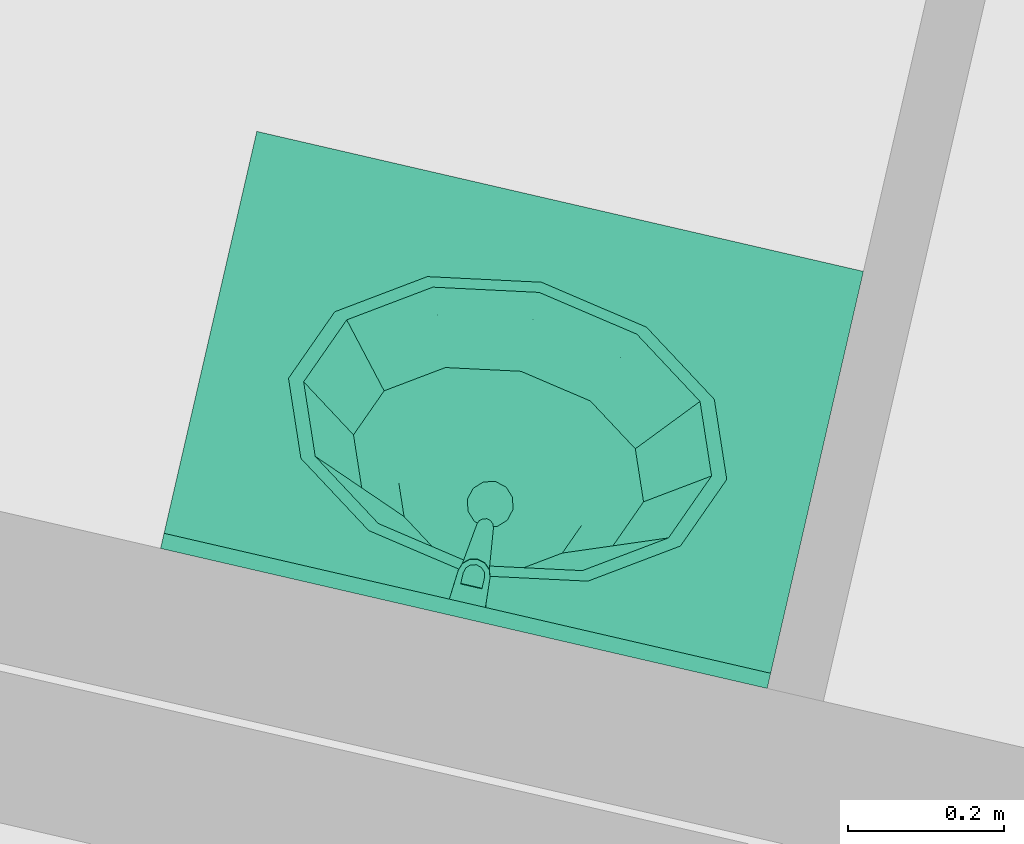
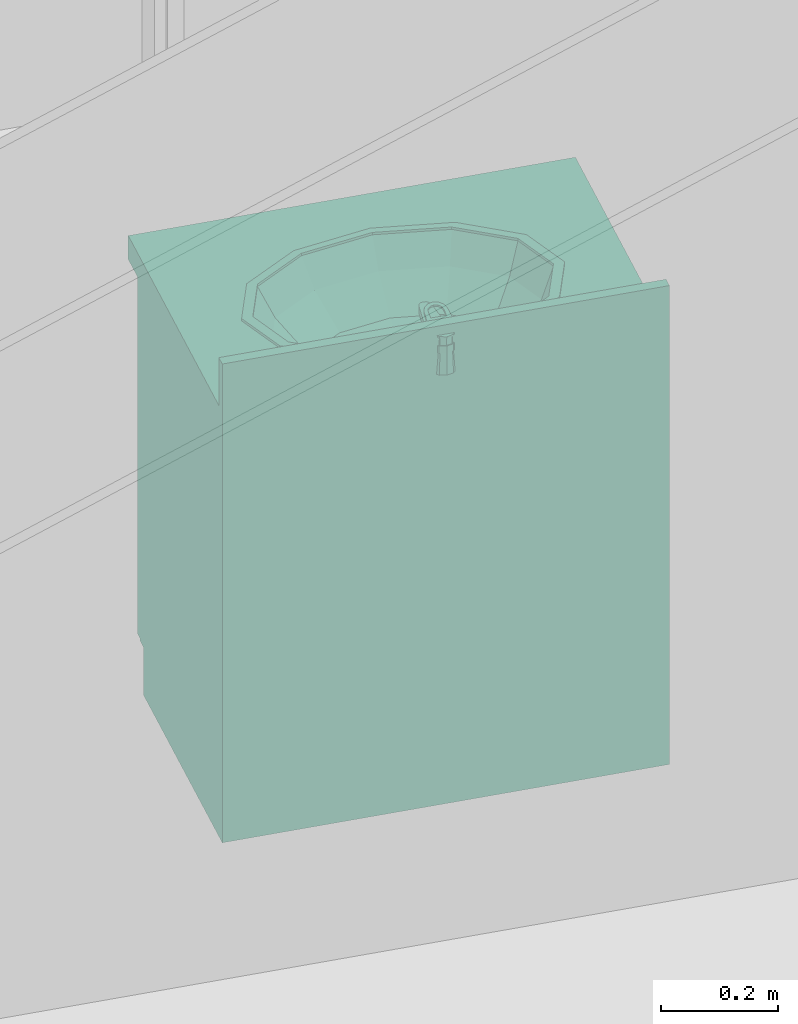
# One storey, part 77 of 91: 1 flow terminal.
"""IFC2X3 building model written with IfcOpenShell, lengths in metres."""

from ifc_helpers import new_model, entity, si_unit, converted_unit, derived_unit, money_unit, direction, frame, origin_with_axes, place, context, subcontext, project, spatial, open_shell, faceted_brep, surface_model, source, transform, mapped, type_object, element, save


model = new_model("IFC2X3")

# Units and contexts
model_context = context("Model", 3, precision=1e-05, world=origin_with_axes(), true_north=direction((0.0, 1.0)))
body_context = subcontext(model_context, "Body", "Model", "MODEL_VIEW")
ifc_project = project(units=[si_unit("LENGTHUNIT", "METRE"), si_unit("AREAUNIT", "SQUARE_METRE"), si_unit("VOLUMEUNIT", "CUBIC_METRE"), converted_unit("PLANEANGLEUNIT", "DEGREE", entity("IfcPlaneAngleMeasure", 0.0174532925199), si_unit("PLANEANGLEUNIT", "RADIAN"), dimensions=[0, 0, 0, 0, 0, 0, 0]), si_unit("SOLIDANGLEUNIT", "STERADIAN"), money_unit("EUR"), converted_unit("TIMEUNIT", "Year", entity("IfcTimeMeasure", 31556926.0), si_unit("TIMEUNIT", "SECOND"), dimensions=[0, 0, 1, 0, 0, 0, 0]), si_unit("MASSUNIT", "GRAM", prefix="KILO"), si_unit("THERMODYNAMICTEMPERATUREUNIT", "DEGREE_CELSIUS"), si_unit("LUMINOUSINTENSITYUNIT", "LUMEN"), si_unit("ENERGYUNIT", "JOULE", prefix="MEGA"), derived_unit("THERMALCONDUCTANCEUNIT", [(si_unit("POWERUNIT", "WATT"), 1), (si_unit("LENGTHUNIT", "METRE"), -1), (si_unit("THERMODYNAMICTEMPERATUREUNIT", "KELVIN"), -1)]), derived_unit("SPECIFICHEATCAPACITYUNIT", [(si_unit("ENERGYUNIT", "JOULE"), 1), (si_unit("MASSUNIT", "GRAM", prefix="KILO"), -1), (si_unit("THERMODYNAMICTEMPERATUREUNIT", "KELVIN"), -1)]), derived_unit("MASSDENSITYUNIT", [(si_unit("MASSUNIT", "GRAM", prefix="KILO"), 1), (si_unit("VOLUMEUNIT", "CUBIC_METRE"), -1)])], contexts=[model_context])

# Site, building, storey
site_placement = place(None, origin_with_axes())
site = spatial("IfcSite", under=ifc_project, at=site_placement, Name="Site", CompositionType="ELEMENT")
building_placement = place(site_placement, origin_with_axes())
building = spatial("IfcBuilding", under=site, at=building_placement, Name="Bâtiment", CompositionType="ELEMENT")
storey_placement = place(building_placement, frame((0.0, 0.0, 5.44), z_axis=(0.0, 0.0, 1.0), x_axis=(1.0, 0.0, 0.0)))
storey = spatial("IfcBuildingStorey", under=building, at=storey_placement, Name="R+2", CompositionType="ELEMENT", Elevation=5.44)

# Flow terminal
sanitary_terminal_type = type_object("IfcSanitaryTerminalType", Name="Lavabo sur meuble 23", PredefinedType="NOTDEFINED")
shared_shape = source(origin_with_axes(), body_context, "Body", "SurfaceModel", [
    faceted_brep([(0.0, 0.09, 0.0), (0.8, 0.09, 0.0), (0.8, 0.09, 0.1), (0.0, 0.09, 0.1), (0.0, 0.55, 0.0), (0.8, 0.55, 0.0), (0.8, 0.55, 0.1), (0.0, 0.55, 0.1)], [[[0, 1, 2, 3]], [[0, 4, 5, 1]], [[1, 5, 6, 2]], [[3, 2, 6, 7]], [[4, 0, 3, 7]], [[5, 4, 7, 6]]]),
    faceted_brep([(0.0, 0.07, 0.1), (0.02, 0.07, 0.1), (0.02, 0.07, 0.12), (0.0, 0.07, 0.12), (0.0, 0.55, 0.1), (0.02, 0.55, 0.1), (0.78, 0.55, 0.1), (0.8, 0.55, 0.1), (0.8, 0.07, 0.1), (0.78, 0.07, 0.1), (0.78, 0.07, 0.12), (0.8, 0.07, 0.12), (0.8, 0.55, 0.12), (0.78, 0.55, 0.12), (0.02, 0.55, 0.12), (0.0, 0.55, 0.12)], [[[0, 1, 2, 3]], [[0, 4, 5, 6, 7, 8, 9, 1]], [[1, 9, 10, 2]], [[3, 2, 10, 11, 12, 13, 14, 15]], [[4, 0, 3, 15]], [[5, 4, 15, 14]], [[6, 5, 14, 13]], [[7, 6, 13, 12]], [[8, 7, 12, 11]], [[9, 8, 11, 10]]]),
    faceted_brep([(0.0, 0.07, 0.12), (0.02, 0.07, 0.12), (0.02, 0.07, 0.85), (0.0, 0.07, 0.85), (0.0, 0.55, 0.12), (0.8, 0.55, 0.12), (0.8, 0.07, 0.12), (0.78, 0.07, 0.12), (0.78, 0.53, 0.12), (0.02, 0.53, 0.12), (0.02, 0.53, 0.85), (0.78, 0.53, 0.85), (0.78, 0.07, 0.85), (0.8, 0.07, 0.85), (0.8, 0.55, 0.85), (0.0, 0.55, 0.85)], [[[0, 1, 2, 3]], [[0, 4, 5, 6, 7, 8, 9, 1]], [[1, 9, 10, 2]], [[3, 2, 10, 11, 12, 13, 14, 15]], [[4, 0, 3, 15]], [[5, 4, 15, 14]], [[6, 5, 14, 13]], [[7, 6, 13, 12]], [[8, 7, 12, 11]], [[9, 8, 11, 10]]]),
    faceted_brep([(0.78, 0.07, 0.323333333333), (0.78, 0.53, 0.323333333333), (0.78, 0.53, 0.343333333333), (0.78, 0.07, 0.343333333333), (0.02, 0.07, 0.323333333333), (0.02, 0.53, 0.323333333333), (0.02, 0.53, 0.343333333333), (0.02, 0.07, 0.343333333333)], [[[0, 1, 2, 3]], [[0, 4, 5, 1]], [[1, 5, 6, 2]], [[3, 2, 6, 7]], [[4, 0, 3, 7]], [[5, 4, 7, 6]]]),
    faceted_brep([(0.78, 0.07, 0.566666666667), (0.78, 0.53, 0.566666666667), (0.78, 0.53, 0.586666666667), (0.78, 0.07, 0.586666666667), (0.02, 0.07, 0.566666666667), (0.02, 0.53, 0.566666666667), (0.02, 0.53, 0.586666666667), (0.02, 0.07, 0.586666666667)], [[[0, 1, 2, 3]], [[0, 4, 5, 1]], [[1, 5, 6, 2]], [[3, 2, 6, 7]], [[4, 0, 3, 7]], [[5, 4, 7, 6]]]),
    faceted_brep([(0.0, 0.55, 0.85), (0.8, 0.55, 0.85), (0.8, 0.0, 0.85), (0.0, 0.0, 0.85), (0.535, 0.144115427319, 0.85), (0.633826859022, 0.21, 0.85), (0.67, 0.3, 0.85), (0.633826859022, 0.39, 0.85), (0.535, 0.455884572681, 0.85), (0.4, 0.48, 0.85), (0.265, 0.455884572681, 0.85), (0.166173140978, 0.39, 0.85), (0.13, 0.3, 0.85), (0.166173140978, 0.21, 0.85), (0.265, 0.144115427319, 0.85), (0.4, 0.12, 0.85), (0.0, 0.55, 0.9), (0.8, 0.55, 0.9), (0.8, 0.0, 0.9), (0.0, 0.0, 0.9), (0.535, 0.144115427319, 0.9), (0.633826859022, 0.21, 0.9), (0.67, 0.3, 0.9), (0.633826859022, 0.39, 0.9), (0.535, 0.455884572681, 0.9), (0.4, 0.48, 0.9), (0.265, 0.455884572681, 0.9), (0.166173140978, 0.39, 0.9), (0.13, 0.3, 0.9), (0.166173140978, 0.21, 0.9), (0.265, 0.144115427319, 0.9), (0.4, 0.12, 0.9)], [[[0, 1, 2, 3], [4, 5, 6, 7, 8, 9, 10, 11, 12, 13, 14, 15]], [[0, 16, 17, 1]], [[1, 17, 18, 2]], [[2, 18, 19, 3]], [[3, 19, 16, 0]], [[20, 21, 5, 4]], [[21, 22, 6, 5]], [[22, 23, 7, 6]], [[23, 24, 8, 7]], [[24, 25, 9, 8]], [[25, 26, 10, 9]], [[26, 27, 11, 10]], [[27, 28, 12, 11]], [[28, 29, 13, 12]], [[29, 30, 14, 13]], [[30, 31, 15, 14]], [[31, 20, 4, 15]], [[18, 17, 16, 19], [24, 23, 22, 21, 20, 31, 30, 29, 28, 27, 26, 25]]]),
    faceted_brep([(0.0, 0.53, 0.9), (0.8, 0.53, 0.9), (0.8, 0.53, 1.0), (0.0, 0.53, 1.0), (0.0, 0.55, 0.9), (0.8, 0.55, 0.9), (0.8, 0.55, 1.0), (0.0, 0.55, 1.0)], [[[0, 1, 2, 3]], [[0, 4, 5, 1]], [[1, 5, 6, 2]], [[3, 2, 6, 7]], [[4, 0, 3, 7]], [[5, 4, 7, 6]]]),
    faceted_brep([(0.689, 0.3, 0.905), (0.689, 0.3, 0.9), (0.650281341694, 0.396691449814, 0.9), (0.650281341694, 0.396691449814, 0.905), (0.650281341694, 0.203308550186, 0.905), (0.650281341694, 0.203308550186, 0.9), (0.5445, 0.132525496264, 0.9), (0.4, 0.106617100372, 0.9), (0.2555, 0.132525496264, 0.9), (0.149718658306, 0.203308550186, 0.9), (0.111, 0.3, 0.9), (0.149718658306, 0.396691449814, 0.9), (0.2555, 0.467474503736, 0.9), (0.4, 0.493382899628, 0.9), (0.5445, 0.467474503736, 0.9), (0.669, 0.3, 0.9), (0.632960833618, 0.39, 0.9), (0.5345, 0.455884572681, 0.9), (0.4, 0.48, 0.9), (0.2655, 0.455884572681, 0.9), (0.167039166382, 0.39, 0.9), (0.131, 0.3, 0.9), (0.167039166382, 0.21, 0.9), (0.2655, 0.144115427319, 0.9), (0.4, 0.12, 0.9), (0.5345, 0.144115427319, 0.9), (0.632960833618, 0.21, 0.9), (0.5445, 0.467474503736, 0.905), (0.4, 0.493382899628, 0.905), (0.2555, 0.467474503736, 0.905), (0.149718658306, 0.396691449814, 0.905), (0.111, 0.3, 0.905), (0.149718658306, 0.203308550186, 0.905), (0.2555, 0.132525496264, 0.905), (0.4, 0.106617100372, 0.905), (0.5445, 0.132525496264, 0.905), (0.669, 0.3, 0.905), (0.632960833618, 0.21, 0.905), (0.5345, 0.144115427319, 0.905), (0.4, 0.12, 0.905), (0.2655, 0.144115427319, 0.905), (0.167039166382, 0.21, 0.905), (0.131, 0.3, 0.905), (0.167039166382, 0.39, 0.905), (0.2655, 0.455884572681, 0.905), (0.4, 0.48, 0.905), (0.5345, 0.455884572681, 0.905), (0.632960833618, 0.39, 0.905)], [[[0, 1, 2, 3]], [[4, 5, 1, 0]], [[1, 5, 6, 7, 8, 9, 10, 11, 12, 13, 14, 2], [15, 16, 17, 18, 19, 20, 21, 22, 23, 24, 25, 26]], [[3, 2, 14, 27]], [[0, 3, 27, 28, 29, 30, 31, 32, 33, 34, 35, 4], [36, 37, 38, 39, 40, 41, 42, 43, 44, 45, 46, 47]], [[35, 6, 5, 4]], [[34, 7, 6, 35]], [[33, 8, 7, 34]], [[32, 9, 8, 33]], [[31, 10, 9, 32]], [[30, 11, 10, 31]], [[29, 12, 11, 30]], [[28, 13, 12, 29]], [[27, 14, 13, 28]], [[47, 16, 15, 36]], [[46, 17, 16, 47]], [[45, 18, 17, 46]], [[44, 19, 18, 45]], [[43, 20, 19, 44]], [[42, 21, 20, 43]], [[41, 22, 21, 42]], [[40, 23, 22, 41]], [[39, 24, 23, 40]], [[38, 25, 24, 39]], [[37, 26, 25, 38]], [[36, 15, 26, 37]]]),
    surface_model("IfcShellBasedSurfaceModel", [(0.4, 0.48, 0.9), (0.4, 0.48, 0.848), (0.52105, 0.458296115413, 0.848), (0.5345, 0.455884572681, 0.9), (0.2655, 0.455884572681, 0.9), (0.27895, 0.458296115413, 0.848), (0.609664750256, 0.399, 0.848), (0.632960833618, 0.39, 0.9), (0.167039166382, 0.39, 0.9), (0.190335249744, 0.399, 0.848), (0.6421, 0.318, 0.848), (0.669, 0.3, 0.9), (0.131, 0.3, 0.9), (0.1579, 0.318, 0.848), (0.609664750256, 0.237, 0.848), (0.632960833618, 0.21, 0.9), (0.167039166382, 0.21, 0.9), (0.190335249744, 0.237, 0.848), (0.52105, 0.177703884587, 0.848), (0.5345, 0.144115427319, 0.9), (0.2655, 0.144115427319, 0.9), (0.27895, 0.177703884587, 0.848), (0.4, 0.156, 0.848), (0.4, 0.12, 0.9)], [open_shell([[[0, 1, 2, 3]], [[4, 5, 1, 0]], [[3, 2, 6, 7]], [[8, 9, 5, 4]], [[7, 6, 10, 11]], [[12, 13, 9, 8]], [[11, 10, 14, 15]], [[16, 17, 13, 12]], [[15, 14, 18, 19]], [[20, 21, 17, 16]], [[19, 18, 22, 23]], [[23, 22, 21, 20]]])]),
    surface_model("IfcShellBasedSurfaceModel", [(0.4, 0.48, 0.848), (0.4, 0.48, 0.796), (0.4956295, 0.462853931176, 0.796), (0.52105, 0.458296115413, 0.848), (0.27895, 0.458296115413, 0.848), (0.3043705, 0.462853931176, 0.796), (0.565635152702, 0.41601, 0.796), (0.609664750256, 0.399, 0.848), (0.190335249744, 0.399, 0.848), (0.234364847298, 0.41601, 0.796), (0.591259, 0.35202, 0.796), (0.6421, 0.318, 0.848), (0.1579, 0.318, 0.848), (0.208741, 0.35202, 0.796), (0.565635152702, 0.28803, 0.796), (0.609664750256, 0.237, 0.848), (0.190335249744, 0.237, 0.848), (0.234364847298, 0.28803, 0.796), (0.4956295, 0.241186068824, 0.796), (0.52105, 0.177703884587, 0.848), (0.27895, 0.177703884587, 0.848), (0.3043705, 0.241186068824, 0.796), (0.4, 0.22404, 0.796), (0.4, 0.156, 0.848)], [open_shell([[[0, 1, 2, 3]], [[4, 5, 1, 0]], [[3, 2, 6, 7]], [[8, 9, 5, 4]], [[7, 6, 10, 11]], [[12, 13, 9, 8]], [[11, 10, 14, 15]], [[16, 17, 13, 12]], [[15, 14, 18, 19]], [[20, 21, 17, 16]], [[19, 18, 22, 23]], [[23, 22, 21, 20]]])]),
    surface_model("IfcShellBasedSurfaceModel", [(0.4, 0.48, 0.796), (0.4, 0.48, 0.77), (0.460246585, 0.469197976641, 0.77), (0.4956295, 0.462853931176, 0.796), (0.3043705, 0.462853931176, 0.796), (0.339753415, 0.469197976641, 0.77), (0.504350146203, 0.4396863, 0.77), (0.565635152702, 0.41601, 0.796), (0.234364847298, 0.41601, 0.796), (0.295649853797, 0.4396863, 0.77), (0.52049317, 0.3993726, 0.77), (0.591259, 0.35202, 0.796), (0.208741, 0.35202, 0.796), (0.27950683, 0.3993726, 0.77), (0.504350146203, 0.3590589, 0.77), (0.565635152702, 0.28803, 0.796), (0.234364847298, 0.28803, 0.796), (0.295649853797, 0.3590589, 0.77), (0.460246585, 0.329547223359, 0.77), (0.4956295, 0.241186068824, 0.796), (0.3043705, 0.241186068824, 0.796), (0.339753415, 0.329547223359, 0.77), (0.4, 0.3187452, 0.77), (0.4, 0.22404, 0.796)], [open_shell([[[0, 1, 2, 3]], [[4, 5, 1, 0]], [[3, 2, 6, 7]], [[8, 9, 5, 4]], [[7, 6, 10, 11]], [[12, 13, 9, 8]], [[11, 10, 14, 15]], [[16, 17, 13, 12]], [[15, 14, 18, 19]], [[20, 21, 17, 16]], [[19, 18, 22, 23]], [[23, 22, 21, 20]]])]),
    surface_model("IfcShellBasedSurfaceModel", [(0.4, 0.48, 0.77), (0.415, 0.425353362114, 0.763), (0.460246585, 0.469197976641, 0.77), (0.4, 0.4293726, 0.763), (0.425980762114, 0.4143726, 0.763), (0.339753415, 0.469197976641, 0.77), (0.504350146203, 0.4396863, 0.77), (0.385, 0.425353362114, 0.763), (0.43, 0.3993726, 0.763), (0.295649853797, 0.4396863, 0.77), (0.52049317, 0.3993726, 0.77), (0.374019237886, 0.4143726, 0.763), (0.425980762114, 0.3843726, 0.763), (0.27950683, 0.3993726, 0.77), (0.504350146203, 0.3590589, 0.77), (0.37, 0.3993726, 0.763), (0.415, 0.373391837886, 0.763), (0.295649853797, 0.3590589, 0.77), (0.460246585, 0.329547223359, 0.77), (0.374019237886, 0.3843726, 0.763), (0.4, 0.3693726, 0.763), (0.339753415, 0.329547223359, 0.77), (0.4, 0.3187452, 0.77), (0.385, 0.373391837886, 0.763)], [open_shell([[[0, 1, 2]], [[0, 3, 1]], [[2, 1, 4]], [[5, 3, 0]], [[2, 4, 6]], [[5, 7, 3]], [[6, 4, 8]], [[9, 7, 5]], [[6, 8, 10]], [[9, 11, 7]], [[10, 8, 12]], [[13, 11, 9]], [[10, 12, 14]], [[13, 15, 11]], [[14, 12, 16]], [[17, 15, 13]], [[14, 16, 18]], [[17, 19, 15]], [[18, 16, 20]], [[21, 19, 17]], [[18, 20, 22]], [[21, 23, 19]], [[22, 20, 23]], [[22, 23, 21]]])]),
    surface_model("IfcShellBasedSurfaceModel", [(0.43, 0.3993726, 0.763), (0.43, 0.3993726, 0.758), (0.425980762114, 0.4143726, 0.758), (0.425980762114, 0.4143726, 0.763), (0.425980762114, 0.3843726, 0.763), (0.425980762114, 0.3843726, 0.758), (0.415, 0.373391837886, 0.758), (0.4, 0.3693726, 0.758), (0.385, 0.373391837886, 0.758), (0.374019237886, 0.3843726, 0.758), (0.37, 0.3993726, 0.758), (0.374019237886, 0.4143726, 0.758), (0.385, 0.425353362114, 0.758), (0.4, 0.4293726, 0.758), (0.415, 0.425353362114, 0.758), (0.415, 0.425353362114, 0.763), (0.415, 0.373391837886, 0.763), (0.4, 0.3693726, 0.763), (0.385, 0.373391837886, 0.763), (0.374019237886, 0.3843726, 0.763), (0.37, 0.3993726, 0.763), (0.374019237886, 0.4143726, 0.763), (0.385, 0.425353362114, 0.763), (0.4, 0.4293726, 0.763)], [open_shell([[[0, 1, 2, 3]], [[4, 5, 1, 0]], [[1, 5, 6, 7, 8, 9, 10, 11, 12, 13, 14, 2]], [[3, 2, 14, 15]], [[16, 6, 5, 4]], [[17, 7, 6, 16]], [[18, 8, 7, 17]], [[19, 9, 8, 18]], [[20, 10, 9, 19]], [[21, 11, 10, 20]], [[22, 12, 11, 21]], [[23, 13, 12, 22]], [[15, 14, 13, 23]]])]),
    faceted_brep([(0.4125, 0.554150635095, 0.9), (0.4, 0.5575, 0.9), (0.4, 0.553701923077, 0.975961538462), (0.410587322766, 0.550837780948, 0.976507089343), (0.421650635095, 0.545, 0.9), (0.425, 0.5325, 0.9), (0.421650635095, 0.52, 0.9), (0.4125, 0.510849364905, 0.9), (0.4, 0.5075, 0.9), (0.3875, 0.510849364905, 0.9), (0.378349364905, 0.52, 0.9), (0.375, 0.5325, 0.9), (0.378349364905, 0.545, 0.9), (0.3875, 0.554150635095, 0.9), (0.389412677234, 0.550837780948, 0.976507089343), (0.381726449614, 0.543050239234, 0.977990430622), (0.379, 0.5325, 0.98), (0.381899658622, 0.522049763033, 0.981990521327), (0.389585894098, 0.514462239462, 0.983435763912), (0.4, 0.511698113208, 0.983962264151), (0.410414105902, 0.514462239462, 0.983435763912), (0.418100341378, 0.522049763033, 0.981990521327), (0.421, 0.5325, 0.98), (0.418273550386, 0.543050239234, 0.977990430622)], [[[0, 1, 2, 3]], [[0, 4, 5, 6, 7, 8, 9, 10, 11, 12, 13, 1]], [[1, 13, 14, 2]], [[3, 2, 14, 15, 16, 17, 18, 19, 20, 21, 22, 23]], [[4, 0, 3, 23]], [[5, 4, 23, 22]], [[6, 5, 22, 21]], [[7, 6, 21, 20]], [[8, 7, 20, 19]], [[9, 8, 19, 18]], [[10, 9, 18, 17]], [[11, 10, 17, 16]], [[12, 11, 16, 15]], [[13, 12, 15, 14]]]),
    faceted_brep([(0.409, 0.4295, 0.935), (0.407794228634, 0.434, 0.935), (0.407794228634, 0.434, 0.945), (0.409, 0.4295, 0.945), (0.407794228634, 0.425, 0.935), (0.4045, 0.421705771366, 0.935), (0.4, 0.4205, 0.935), (0.3955, 0.421705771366, 0.935), (0.392205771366, 0.425, 0.935), (0.391, 0.4295, 0.935), (0.392205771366, 0.434, 0.935), (0.3955, 0.437294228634, 0.935), (0.4, 0.4385, 0.935), (0.4045, 0.437294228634, 0.935), (0.4045, 0.437294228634, 0.945), (0.4, 0.4385, 0.945), (0.3955, 0.437294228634, 0.945), (0.392205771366, 0.434, 0.945), (0.391, 0.4295, 0.945), (0.392205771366, 0.425, 0.945), (0.3955, 0.421705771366, 0.945), (0.4, 0.4205, 0.945), (0.4045, 0.421705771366, 0.945), (0.407794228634, 0.425, 0.945)], [[[0, 1, 2, 3]], [[0, 4, 5, 6, 7, 8, 9, 10, 11, 12, 13, 1]], [[1, 13, 14, 2]], [[3, 2, 14, 15, 16, 17, 18, 19, 20, 21, 22, 23]], [[4, 0, 3, 23]], [[5, 4, 23, 22]], [[6, 5, 22, 21]], [[7, 6, 21, 20]], [[8, 7, 20, 19]], [[9, 8, 19, 18]], [[10, 9, 18, 17]], [[11, 10, 17, 16]], [[12, 11, 16, 15]], [[13, 12, 15, 14]]]),
    faceted_brep([(0.387128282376, 0.552756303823, 0.96), (0.378272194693, 0.54269320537, 0.96), (0.3761946, 0.5294501, 0.96), (0.389088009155, 0.428111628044, 0.96), (0.390971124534, 0.423216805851, 0.96), (0.394906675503, 0.419750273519, 0.96), (0.400000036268, 0.41850003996, 0.96), (0.405093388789, 0.419750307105, 0.96), (0.409028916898, 0.423216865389, 0.96), (0.410912, 0.4281117, 0.96), (0.423805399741, 0.529450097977, 0.96), (0.421727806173, 0.542693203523, 0.96), (0.412871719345, 0.552756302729, 0.96), (0.40000000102, 0.556499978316, 0.96), (0.411, 0.551552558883, 0.96), (0.419052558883, 0.5435, 0.96), (0.422, 0.5325, 0.96), (0.419052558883, 0.5215, 0.96), (0.411, 0.513447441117, 0.96), (0.4, 0.5105, 0.96), (0.389, 0.513447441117, 0.96), (0.380947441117, 0.5215, 0.96), (0.378, 0.5325, 0.96), (0.380947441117, 0.5435, 0.96), (0.389, 0.551552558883, 0.96), (0.4, 0.5545, 0.96), (0.378272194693, 0.54269320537, 0.945), (0.387128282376, 0.552756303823, 0.945), (0.3761946, 0.5294501, 0.945), (0.389088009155, 0.428111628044, 0.945), (0.390971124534, 0.423216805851, 0.945), (0.394906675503, 0.419750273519, 0.945), (0.400000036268, 0.41850003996, 0.945), (0.405093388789, 0.419750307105, 0.945), (0.409028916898, 0.423216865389, 0.945), (0.410912, 0.4281117, 0.945), (0.423805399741, 0.529450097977, 0.945), (0.421727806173, 0.542693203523, 0.945), (0.412871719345, 0.552756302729, 0.945), (0.40000000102, 0.556499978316, 0.945), (0.411375, 0.552202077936, 0.945), (0.419702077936, 0.543875, 0.945), (0.42275, 0.5325, 0.945), (0.419702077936, 0.521125, 0.945), (0.411375, 0.512797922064, 0.945), (0.4, 0.50975, 0.945), (0.388625, 0.512797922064, 0.945), (0.380297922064, 0.521125, 0.945), (0.37725, 0.5325, 0.945), (0.380297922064, 0.543875, 0.945), (0.388625, 0.552202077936, 0.945), (0.4, 0.55525, 0.945)], [[[0, 1, 2, 3, 4, 5, 6, 7, 8, 9, 10, 11, 12, 13], [14, 15, 16, 17, 18, 19, 20, 21, 22, 23, 24, 25]], [[26, 1, 0, 27]], [[28, 2, 1, 26]], [[29, 3, 2, 28]], [[30, 4, 3, 29]], [[31, 5, 4, 30]], [[32, 6, 5, 31]], [[33, 7, 6, 32]], [[34, 8, 7, 33]], [[35, 9, 8, 34]], [[36, 10, 9, 35]], [[37, 11, 10, 36]], [[38, 12, 11, 37]], [[39, 13, 12, 38]], [[27, 0, 13, 39]], [[40, 41, 15, 14]], [[41, 42, 16, 15]], [[42, 43, 17, 16]], [[43, 44, 18, 17]], [[44, 45, 19, 18]], [[20, 19, 45, 46]], [[21, 20, 46, 47]], [[22, 21, 47, 48]], [[23, 22, 48, 49]], [[24, 23, 49, 50]], [[50, 51, 25, 24]], [[51, 40, 14, 25]], [[32, 31, 30, 29, 28, 26, 27, 39, 38, 37, 36, 35, 34, 33], [44, 43, 42, 41, 40, 51, 50, 49, 48, 47, 46, 45]]]),
    faceted_brep([(0.423893, 0.53080743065, 0.980322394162), (0.421296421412, 0.543274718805, 0.977947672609), (0.421296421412, 0.544023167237, 0.981877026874), (0.423893, 0.531555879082, 0.984251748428), (0.420945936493, 0.490663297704, 0.987968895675), (0.417663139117, 0.480985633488, 0.989812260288), (0.410061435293, 0.474036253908, 0.991135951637), (0.399999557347, 0.47151438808, 0.991616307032), (0.389937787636, 0.474036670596, 0.991135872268), (0.382336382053, 0.480986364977, 0.989812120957), (0.379054, 0.490664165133, 0.987968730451), (0.376106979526, 0.530807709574, 0.980322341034), (0.378703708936, 0.543274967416, 0.977947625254), (0.38752831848, 0.552591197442, 0.976173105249), (0.400000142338, 0.556031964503, 0.975517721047), (0.41247192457, 0.552591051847, 0.976173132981), (0.414, 0.506959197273, 0.984864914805), (0.386, 0.506959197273, 0.984864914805), (0.386, 0.492143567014, 0.987686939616), (0.387875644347, 0.485267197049, 0.988996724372), (0.393, 0.480233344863, 0.989955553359), (0.4, 0.478390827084, 0.990306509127), (0.407, 0.480233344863, 0.989955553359), (0.412124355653, 0.485267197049, 0.988996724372), (0.414, 0.492143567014, 0.987686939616), (0.41247192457, 0.553339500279, 0.980102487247), (0.400000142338, 0.556780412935, 0.979447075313), (0.38752831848, 0.553339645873, 0.980102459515), (0.378703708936, 0.544023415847, 0.98187697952), (0.376106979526, 0.531556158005, 0.984251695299), (0.379054, 0.491412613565, 0.991898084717), (0.382336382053, 0.481734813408, 0.993741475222), (0.389937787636, 0.474785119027, 0.995065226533), (0.399999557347, 0.472262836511, 0.995545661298), (0.410061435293, 0.47478470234, 0.995065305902), (0.417663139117, 0.48173408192, 0.993741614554), (0.420945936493, 0.491411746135, 0.991898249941), (0.414, 0.507707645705, 0.988794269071), (0.414, 0.492892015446, 0.991616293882), (0.412124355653, 0.486015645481, 0.992926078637), (0.407, 0.480981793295, 0.993884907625), (0.4, 0.479139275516, 0.994235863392), (0.393, 0.480981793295, 0.993884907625), (0.387875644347, 0.486015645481, 0.992926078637), (0.386, 0.492892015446, 0.991616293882), (0.386, 0.507707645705, 0.988794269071)], [[[0, 1, 2, 3]], [[0, 4, 5, 6, 7, 8, 9, 10, 11, 12, 13, 14, 15, 1], [16, 17, 18, 19, 20, 21, 22, 23, 24]], [[1, 15, 25, 2]], [[3, 2, 25, 26, 27, 28, 29, 30, 31, 32, 33, 34, 35, 36], [37, 38, 39, 40, 41, 42, 43, 44, 45]], [[4, 0, 3, 36]], [[5, 4, 36, 35]], [[6, 5, 35, 34]], [[7, 6, 34, 33]], [[8, 7, 33, 32]], [[9, 8, 32, 31]], [[10, 9, 31, 30]], [[11, 10, 30, 29]], [[12, 11, 29, 28]], [[13, 12, 28, 27]], [[14, 13, 27, 26]], [[15, 14, 26, 25]], [[17, 16, 37, 45]], [[18, 17, 45, 44]], [[19, 18, 44, 43]], [[20, 19, 43, 42]], [[21, 20, 42, 41]], [[22, 21, 41, 40]], [[23, 22, 40, 39]], [[24, 23, 39, 38]], [[16, 24, 38, 37]]]),
    faceted_brep([(0.0015, 0.07, 0.1015), (0.3985, 0.07, 0.1015), (0.3985, 0.05, 0.1015), (0.0015, 0.05, 0.1015), (0.0015, 0.07, 0.8485), (0.3985, 0.07, 0.8485), (0.3985, 0.05, 0.8485), (0.0015, 0.05, 0.8485)], [[[0, 1, 2, 3]], [[0, 4, 5, 1]], [[1, 5, 6, 2]], [[3, 2, 6, 7]], [[4, 0, 3, 7]], [[5, 4, 7, 6]]]),
    faceted_brep([(0.358892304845, 0.05, 0.7855), (0.3545, 0.05, 0.781107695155), (0.3485, 0.05, 0.7795), (0.3425, 0.05, 0.781107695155), (0.338107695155, 0.05, 0.7855), (0.3365, 0.05, 0.7915), (0.338107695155, 0.05, 0.7975), (0.3425, 0.05, 0.801892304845), (0.3485, 0.05, 0.8035), (0.3545, 0.05, 0.801892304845), (0.358892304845, 0.05, 0.7975), (0.3605, 0.05, 0.7915), (0.358892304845, 0.025, 0.7855), (0.3545, 0.025, 0.781107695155), (0.3485, 0.025, 0.7795), (0.3425, 0.025, 0.781107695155), (0.338107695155, 0.025, 0.7855), (0.3365, 0.025, 0.7915), (0.338107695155, 0.025, 0.7975), (0.3425, 0.025, 0.801892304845), (0.3485, 0.025, 0.8035), (0.3545, 0.025, 0.801892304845), (0.358892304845, 0.025, 0.7975), (0.3605, 0.025, 0.7915)], [[[0, 1, 2, 3, 4, 5, 6, 7, 8, 9, 10, 11]], [[1, 0, 12, 13]], [[2, 1, 13, 14]], [[3, 2, 14, 15]], [[4, 3, 15, 16]], [[5, 4, 16, 17]], [[6, 5, 17, 18]], [[7, 6, 18, 19]], [[8, 7, 19, 20]], [[9, 8, 20, 21]], [[10, 9, 21, 22]], [[11, 10, 22, 23]], [[0, 11, 23, 12]], [[12, 23, 22, 21, 20, 19, 18, 17, 16, 15, 14, 13]]]),
    faceted_brep([(0.7985, 0.07, 0.1015), (0.7985, 0.05, 0.1015), (0.4015, 0.05, 0.1015), (0.4015, 0.07, 0.1015), (0.7985, 0.07, 0.8485), (0.7985, 0.05, 0.8485), (0.4015, 0.05, 0.8485), (0.4015, 0.07, 0.8485)], [[[0, 1, 2, 3]], [[4, 5, 1, 0]], [[1, 5, 6, 2]], [[3, 2, 6, 7]], [[0, 3, 7, 4]], [[7, 6, 5, 4]]]),
    faceted_brep([(0.441107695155, 0.05, 0.7855), (0.4395, 0.05, 0.7915), (0.441107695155, 0.05, 0.7975), (0.4455, 0.05, 0.801892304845), (0.4515, 0.05, 0.8035), (0.4575, 0.05, 0.801892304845), (0.461892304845, 0.05, 0.7975), (0.4635, 0.05, 0.7915), (0.461892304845, 0.05, 0.7855), (0.4575, 0.05, 0.781107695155), (0.4515, 0.05, 0.7795), (0.4455, 0.05, 0.781107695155), (0.441107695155, 0.025, 0.7855), (0.4395, 0.025, 0.7915), (0.441107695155, 0.025, 0.7975), (0.4455, 0.025, 0.801892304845), (0.4515, 0.025, 0.8035), (0.4575, 0.025, 0.801892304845), (0.461892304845, 0.025, 0.7975), (0.4635, 0.025, 0.7915), (0.461892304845, 0.025, 0.7855), (0.4575, 0.025, 0.781107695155), (0.4515, 0.025, 0.7795), (0.4455, 0.025, 0.781107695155)], [[[0, 1, 2, 3, 4, 5, 6, 7, 8, 9, 10, 11]], [[0, 12, 13, 1]], [[1, 13, 14, 2]], [[2, 14, 15, 3]], [[3, 15, 16, 4]], [[4, 16, 17, 5]], [[5, 17, 18, 6]], [[6, 18, 19, 7]], [[7, 19, 20, 8]], [[8, 20, 21, 9]], [[9, 21, 22, 10]], [[10, 22, 23, 11]], [[11, 23, 12, 0]], [[12, 23, 22, 21, 20, 19, 18, 17, 16, 15, 14, 13]]]),
])
flow_terminal_placement = place(storey_placement, frame((-5.45601888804, 4.12135265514, 0.0), z_axis=(0.0, 0.0, 1.0), x_axis=(-0.974387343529, 0.224876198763, 0.0)))
element("IfcFlowTerminal", 1, at=flow_terminal_placement, inside=storey, type_object=sanitary_terminal_type, Name="MOB-002", ObjectType="SANITARY_TERMINAL", context=body_context, shape_type="MappedRepresentation", body=[
    mapped(shared_shape, transform((0.0, 0.0, 0.0))),
])

save(model, "model.ifc")
